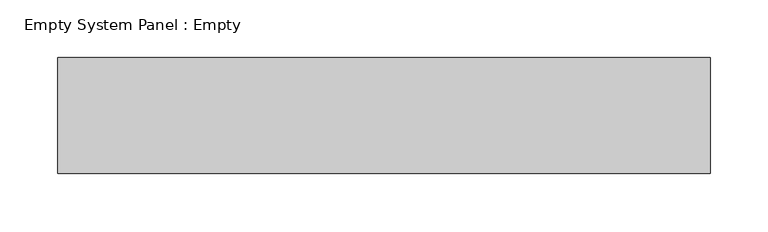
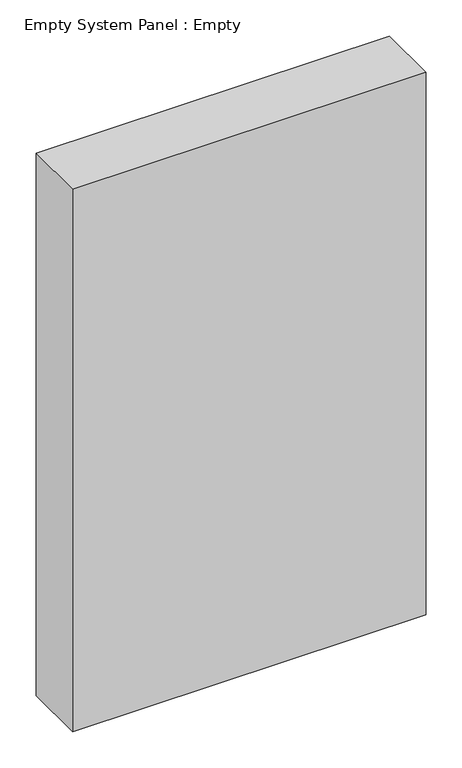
"""IFC4 building model written with IfcOpenShell, lengths in millimetres: plate geometry, Empty System Panel : Empty."""

from ifc_helpers import new_model, si_unit, origin, origin_with_axes, place, context, project, spatial, polyline, outline, extrude, source, transform, mapped, element, save


def empty_system_panel_empty_1f0196b9(model_context):
    return source(origin(), model_context, "Body", "SweptSolid", [
        extrude(outline(polyline([(281.25, -50.0), (-281.25, -50.0), (-281.25, 50.0), (281.25, 50.0), (281.25, -50.0)])), origin_with_axes(), (0.0, 0.0, 1.0), 912.5),
    ])


if __name__ == "__main__":
    model = new_model("IFC4")
    model_context = context("Model", 3, world=origin())
    ifc_project = project(units=[si_unit("LENGTHUNIT", "METRE", prefix="MILLI")], contexts=[model_context])
    site = spatial("IfcSite", under=ifc_project)
    building = spatial("IfcBuilding", under=site)
    placement = place(None, origin())
    empty_system_panel_empty_shape = empty_system_panel_empty_1f0196b9(model_context)
    element("IfcPlate", 1, ObjectType="Empty System Panel : Empty", at=placement, inside=building, context=model_context, shape_type="MappedRepresentation", body=[
        mapped(empty_system_panel_empty_shape, transform((0.0, 0.0, 0.0), x_axis=(1.0, 0.0, 0.0), y_axis=(0.0, 1.0, 0.0), z_axis=(0.0, 0.0, 1.0))),
    ])
    save(model, "model.ifc")
